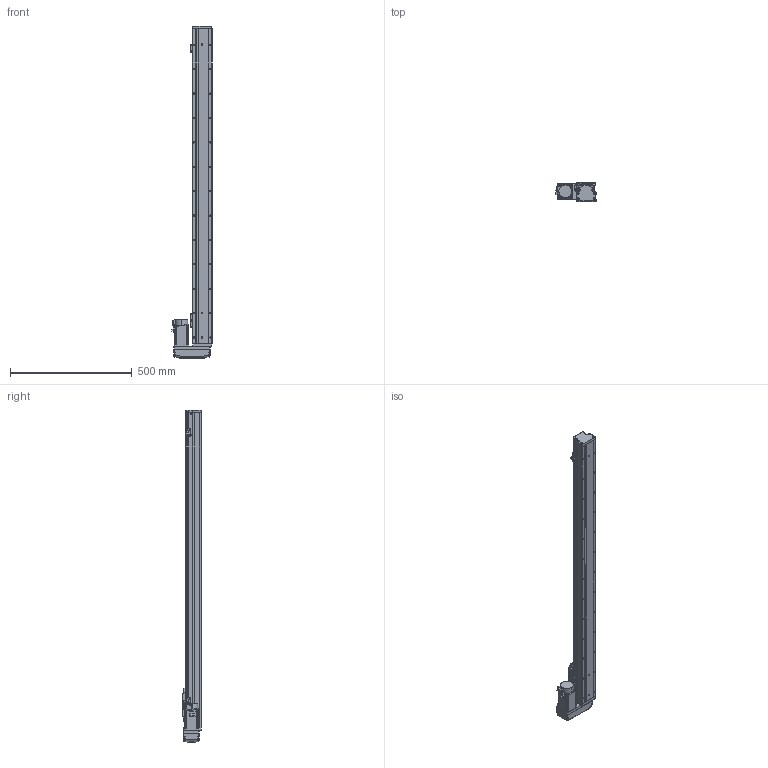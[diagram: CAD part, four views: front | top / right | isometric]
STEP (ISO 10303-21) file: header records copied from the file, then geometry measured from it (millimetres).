
FILE_DESCRIPTION (( 'STEP AP203' ), '1' );
FILE_NAME ('GTH8-1100-BL-M20-C4.step', '2022-09-23T00:59:08', ( '微软用户' ), ( '微软中国' ), 'SwSTEP 2.0', 'SolidWorks 2020', '' );
FILE_SCHEMA (( 'CONFIG_CONTROL_DESIGN' ));
Length unit declared in the file: millimetre
Products named in the file (18): GTH80-028; GTH80-006; CTHA86-033_M40B; GTH50-024; GTH80-013; GTH8-1100-BL-M20-C4; GTH50-023; GBT 70.3-M3℅6; GBT96.1-2002 3×0.8; GTH80-022; GTH80-001_1100; BTH-M3X5X6; GBT 70.1-M3℅6; GTH80-003; hg-kn43j_-s100_; GBT 70.1-M4×16; GTH80-004; CTHA86-015-1_CTHA86-015-2
Assembly tree (57 placements, depth 2):
  GTH8-1100-BL-M20-C4
    GTH80-001_1100
    GTH80-003
    GTH80-004
    GTH80-006
    GTH80-013
    GBT 70.3-M3℅6  x4
    GTH80-022
    GBT 70.1-M3℅6  x14
    GBT 70.1-M4×16  x8
    GTH80-028  x2
    GTH50-024  x3
    GTH50-023  x3
    GBT96.1-2002 3×0.8  x6
    BTH-M3X5X6  x8
    hg-kn43j_-s100_
    CTHA86-015-1_CTHA86-015-2
    CTHA86-033_M40B
Bounding box: 164.8 x 78 x 1361 mm (x, y, z)
Volume: 6572724 mm3; surface area: 630686.9 mm2
Topology: 59 solids, 59 shells, 2260 faces, 5235 edges, 3211 vertices
Faces by surface type: plane 1187, cylinder 631, cone 260, torus 166, bspline 8, sphere 8
Entity records: 41662 total; most frequent: CARTESIAN_POINT 7313, DIRECTION 6789, ORIENTED_EDGE 6288, EDGE_CURVE 3144, AXIS2_PLACEMENT_3D 2385, LINE 2019, VECTOR 2019, VERTEX_POINT 1986
